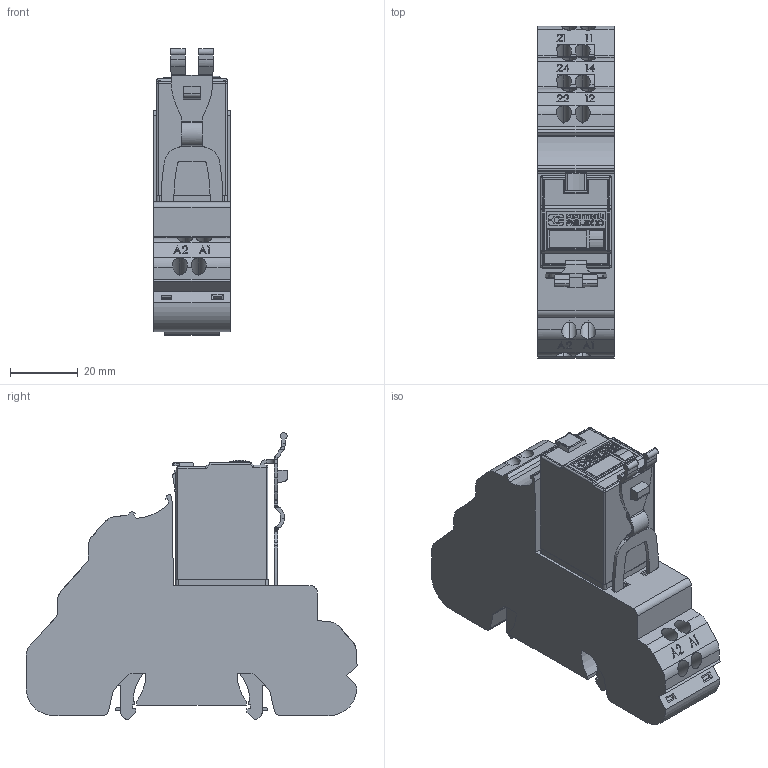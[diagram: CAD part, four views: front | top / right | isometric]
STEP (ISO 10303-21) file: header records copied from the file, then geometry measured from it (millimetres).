
FILE_DESCRIPTION (( 'STEP AP214' ), '1' );
FILE_NAME ('R7_plus_S7-PIR.STEP', '2024-04-04T08:02:37', ( '' ), ( '' ), 'SwSTEP 2.0', 'SolidWorks 2022', '' );
FILE_SCHEMA (( 'AUTOMOTIVE_DESIGN' ));
Length unit declared in the file: millimetre
Products named in the file (1): R7_plus_S7-PIR
Bounding box: 22.5 x 97.75 x 84.43 mm (x, y, z)
Volume: 101024.3 mm3; surface area: 23664.8 mm2
Topology: 1 solids, 1 shells, 810 faces, 2221 edges, 1452 vertices
Faces by surface type: plane 517, bspline 145, cylinder 139, sphere 8, torus 1
Entity records: 36014 total; most frequent: CARTESIAN_POINT 9543, ORIENTED_EDGE 4430, DIRECTION 3354, EDGE_CURVE 2215, VECTOR 1604, LINE 1604, VERTEX_POINT 1452, AXIS2_PLACEMENT_3D 875
